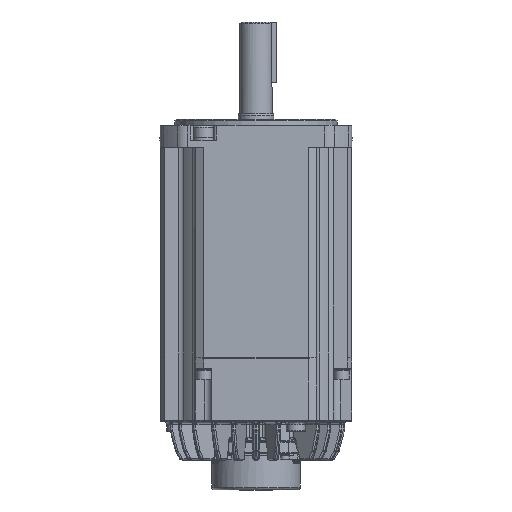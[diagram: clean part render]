
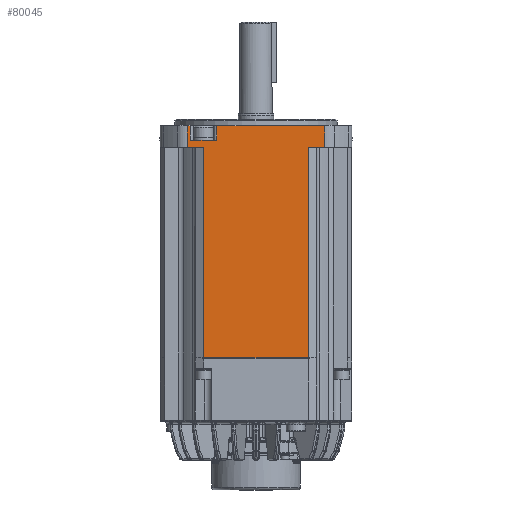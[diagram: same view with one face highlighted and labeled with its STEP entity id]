
A CAD part, front view. The second image highlights one B-rep face of the part: STEP entity #80045.
In plain terms, the highlighted planar face has unit normal (0, -1, 0).
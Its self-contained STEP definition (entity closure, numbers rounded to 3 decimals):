
#5883 = DIRECTION ( 'NONE',  ( 1., 0., 0. ) ) ;
#6225 = EDGE_CURVE ( 'NONE', #135233, #71635, #153235, .T. ) ;
#6311 = CARTESIAN_POINT ( 'NONE',  ( 3.535, -15., -48.5 ) ) ;
#7427 = VECTOR ( 'NONE', #32070, 1000. ) ;
#11605 = CARTESIAN_POINT ( 'NONE',  ( 14.499, -15., -43.5 ) ) ;
#11858 = DIRECTION ( 'NONE',  ( 0., 0., -1. ) ) ;
#12222 = DIRECTION ( 'NONE',  ( -1., 0., 0. ) ) ;
#12472 = ORIENTED_EDGE ( 'NONE', *, *, #23346, .T. ) ;
#12627 = DIRECTION ( 'NONE',  ( -1., 0., 0. ) ) ;
#13170 = ORIENTED_EDGE ( 'NONE', *, *, #122408, .T. ) ;
#13996 = EDGE_CURVE ( 'NONE', #86653, #34870, #136472, .T. ) ;
#15252 = ORIENTED_EDGE ( 'NONE', *, *, #79685, .T. ) ;
#17507 = DIRECTION ( 'NONE',  ( 1., 0., 0. ) ) ;
#20053 = DIRECTION ( 'NONE',  ( 0., -1., 0. ) ) ;
#20896 = ORIENTED_EDGE ( 'NONE', *, *, #47512, .T. ) ;
#21964 = VERTEX_POINT ( 'NONE', #46040 ) ;
#22848 = VECTOR ( 'NONE', #48338, 1000. ) ;
#23346 = EDGE_CURVE ( 'NONE', #102015, #21964, #57261, .T. ) ;
#24037 = DIRECTION ( 'NONE',  ( 0., 0., -1. ) ) ;
#24079 = DIRECTION ( 'NONE',  ( -1., 0., 0. ) ) ;
#24089 = CARTESIAN_POINT ( 'NONE',  ( 96.465, -15., -48.5 ) ) ;
#24730 = CARTESIAN_POINT ( 'NONE',  ( 14.499, -15., -33.8 ) ) ;
#26736 = LINE ( 'NONE', #72795, #155102 ) ;
#28904 = CARTESIAN_POINT ( 'NONE',  ( 14.499, -15., -43.5 ) ) ;
#29344 = CARTESIAN_POINT ( 'NONE',  ( 16.289, -15., -43.5 ) ) ;
#31915 = CARTESIAN_POINT ( 'NONE',  ( 14.499, -15., -191. ) ) ;
#32070 = DIRECTION ( 'NONE',  ( -1., 0., 0. ) ) ;
#34870 = VERTEX_POINT ( 'NONE', #29344 ) ;
#35171 = ORIENTED_EDGE ( 'NONE', *, *, #119904, .T. ) ;
#38436 = EDGE_LOOP ( 'NONE', ( #20896, #13170, #78423, #35171, #15252, #150565, #101168, #122654, #114098, #137163, #94153, #86736, #149367, #12472, #58249 ) ) ;
#41286 = CARTESIAN_POINT ( 'NONE',  ( 5.5, -15., -176.5 ) ) ;
#43283 = CARTESIAN_POINT ( 'NONE',  ( 14.499, -15., -48.5 ) ) ;
#43569 = VECTOR ( 'NONE', #72644, 1000. ) ;
#45029 = CARTESIAN_POINT ( 'NONE',  ( 14.499, -15., -176.5 ) ) ;
#45291 = CARTESIAN_POINT ( 'NONE',  ( 14.499, -15., -48.5 ) ) ;
#45826 = DIRECTION ( 'NONE',  ( 1., 0., 0. ) ) ;
#46040 = CARTESIAN_POINT ( 'NONE',  ( 5.5, -15., -33.8 ) ) ;
#46201 = LINE ( 'NONE', #43283, #108446 ) ;
#47504 = EDGE_CURVE ( 'NONE', #71188, #97809, #26736, .T. ) ;
#47512 = EDGE_CURVE ( 'NONE', #89740, #79111, #125954, .T. ) ;
#48338 = DIRECTION ( 'NONE',  ( 0., 0., -1. ) ) ;
#48368 = CARTESIAN_POINT ( 'NONE',  ( 85.501, -15., -48.5 ) ) ;
#48383 = CARTESIAN_POINT ( 'NONE',  ( 23.5, -15., -43.5 ) ) ;
#51667 = EDGE_CURVE ( 'NONE', #21964, #89740, #142622, .T. ) ;
#52022 = AXIS2_PLACEMENT_3D ( 'NONE', #45029, #20053, #70024 ) ;
#53696 = CARTESIAN_POINT ( 'NONE',  ( 85.501, -15., -191. ) ) ;
#53958 = VECTOR ( 'NONE', #124683, 1000. ) ;
#55287 = EDGE_CURVE ( 'NONE', #131733, #160899, #107238, .T. ) ;
#57261 = LINE ( 'NONE', #41286, #86470 ) ;
#57482 = PLANE ( 'NONE',  #52022 ) ;
#58249 = ORIENTED_EDGE ( 'NONE', *, *, #51667, .T. ) ;
#58796 = CARTESIAN_POINT ( 'NONE',  ( 23.5, -15., -33.8 ) ) ;
#60149 = CARTESIAN_POINT ( 'NONE',  ( 14.499, -15., -191. ) ) ;
#68287 = VERTEX_POINT ( 'NONE', #58796 ) ;
#70024 = DIRECTION ( 'NONE',  ( 0., 0., -1. ) ) ;
#71188 = VERTEX_POINT ( 'NONE', #24089 ) ;
#71331 = VECTOR ( 'NONE', #24079, 1000. ) ;
#71635 = VERTEX_POINT ( 'NONE', #48368 ) ;
#72644 = DIRECTION ( 'NONE',  ( 1., 0., 0. ) ) ;
#72795 = CARTESIAN_POINT ( 'NONE',  ( 96.465, -15., -176.5 ) ) ;
#74138 = VECTOR ( 'NONE', #24037, 1000. ) ;
#76457 = VECTOR ( 'NONE', #12222, 1000. ) ;
#76625 = LINE ( 'NONE', #60149, #43569 ) ;
#78423 = ORIENTED_EDGE ( 'NONE', *, *, #55287, .T. ) ;
#79111 = VERTEX_POINT ( 'NONE', #6311 ) ;
#79441 = CARTESIAN_POINT ( 'NONE',  ( 14.499, -15., -191. ) ) ;
#79685 = EDGE_CURVE ( 'NONE', #108967, #135233, #127055, .T. ) ;
#80045 = ADVANCED_FACE ( 'NONE', ( #107551 ), #57482, .T. ) ;
#82954 = EDGE_CURVE ( 'NONE', #97809, #68287, #124561, .T. ) ;
#86470 = VECTOR ( 'NONE', #90782, 1000. ) ;
#86653 = VERTEX_POINT ( 'NONE', #48383 ) ;
#86736 = ORIENTED_EDGE ( 'NONE', *, *, #133194, .T. ) ;
#89740 = VERTEX_POINT ( 'NONE', #123462 ) ;
#90782 = DIRECTION ( 'NONE',  ( 0., 0., 1. ) ) ;
#91518 = VECTOR ( 'NONE', #12627, 1000. ) ;
#94000 = VECTOR ( 'NONE', #17507, 1000. ) ;
#94153 = ORIENTED_EDGE ( 'NONE', *, *, #13996, .T. ) ;
#94516 = VECTOR ( 'NONE', #45826, 1000. ) ;
#95371 = CARTESIAN_POINT ( 'NONE',  ( 50., -15., -191. ) ) ;
#96188 = CARTESIAN_POINT ( 'NONE',  ( 14.499, -15., -43.5 ) ) ;
#97598 = VECTOR ( 'NONE', #11858, 1000. ) ;
#97809 = VERTEX_POINT ( 'NONE', #111818 ) ;
#99634 = CARTESIAN_POINT ( 'NONE',  ( 85.501, -15., -176.5 ) ) ;
#101168 = ORIENTED_EDGE ( 'NONE', *, *, #133492, .T. ) ;
#102015 = VERTEX_POINT ( 'NONE', #148858 ) ;
#103340 = DIRECTION ( 'NONE',  ( -1., 0., 0. ) ) ;
#104405 = LINE ( 'NONE', #11605, #71331 ) ;
#106567 = LINE ( 'NONE', #96188, #7427 ) ;
#107238 = LINE ( 'NONE', #146932, #74138 ) ;
#107331 = VECTOR ( 'NONE', #103340, 1000. ) ;
#107551 = FACE_OUTER_BOUND ( 'NONE', #38436, .T. ) ;
#108446 = VECTOR ( 'NONE', #5883, 1000. ) ;
#108967 = VERTEX_POINT ( 'NONE', #95371 ) ;
#111460 = CARTESIAN_POINT ( 'NONE',  ( 14.499, -15., -48.5 ) ) ;
#111818 = CARTESIAN_POINT ( 'NONE',  ( 96.465, -15., -33.8 ) ) ;
#114098 = ORIENTED_EDGE ( 'NONE', *, *, #82954, .T. ) ;
#117700 = CARTESIAN_POINT ( 'NONE',  ( 12.711, -15., -43.5 ) ) ;
#119904 = EDGE_CURVE ( 'NONE', #160899, #108967, #76625, .T. ) ;
#122408 = EDGE_CURVE ( 'NONE', #79111, #131733, #127580, .T. ) ;
#122654 = ORIENTED_EDGE ( 'NONE', *, *, #47504, .T. ) ;
#123307 = CARTESIAN_POINT ( 'NONE',  ( 23.5, -15., -176.5 ) ) ;
#123462 = CARTESIAN_POINT ( 'NONE',  ( 3.535, -15., -33.8 ) ) ;
#124561 = LINE ( 'NONE', #149101, #91518 ) ;
#124683 = DIRECTION ( 'NONE',  ( 0., 0., 1. ) ) ;
#125954 = LINE ( 'NONE', #147294, #22848 ) ;
#127055 = LINE ( 'NONE', #79441, #94000 ) ;
#127580 = LINE ( 'NONE', #45291, #94516 ) ;
#130675 = LINE ( 'NONE', #123307, #97598 ) ;
#131733 = VERTEX_POINT ( 'NONE', #111460 ) ;
#133194 = EDGE_CURVE ( 'NONE', #34870, #135722, #106567, .T. ) ;
#133492 = EDGE_CURVE ( 'NONE', #71635, #71188, #46201, .T. ) ;
#135233 = VERTEX_POINT ( 'NONE', #53696 ) ;
#135722 = VERTEX_POINT ( 'NONE', #117700 ) ;
#136472 = LINE ( 'NONE', #28904, #107331 ) ;
#137163 = ORIENTED_EDGE ( 'NONE', *, *, #145390, .T. ) ;
#138279 = EDGE_CURVE ( 'NONE', #135722, #102015, #104405, .T. ) ;
#142622 = LINE ( 'NONE', #24730, #76457 ) ;
#145390 = EDGE_CURVE ( 'NONE', #68287, #86653, #130675, .T. ) ;
#146932 = CARTESIAN_POINT ( 'NONE',  ( 14.499, -15., -176.5 ) ) ;
#147294 = CARTESIAN_POINT ( 'NONE',  ( 3.535, -15., -176.5 ) ) ;
#148858 = CARTESIAN_POINT ( 'NONE',  ( 5.5, -15., -43.5 ) ) ;
#149101 = CARTESIAN_POINT ( 'NONE',  ( 14.499, -15., -33.8 ) ) ;
#149367 = ORIENTED_EDGE ( 'NONE', *, *, #138279, .T. ) ;
#150565 = ORIENTED_EDGE ( 'NONE', *, *, #6225, .T. ) ;
#153235 = LINE ( 'NONE', #99634, #53958 ) ;
#155102 = VECTOR ( 'NONE', #159756, 1000. ) ;
#159756 = DIRECTION ( 'NONE',  ( 0., 0., 1. ) ) ;
#160899 = VERTEX_POINT ( 'NONE', #31915 ) ;
